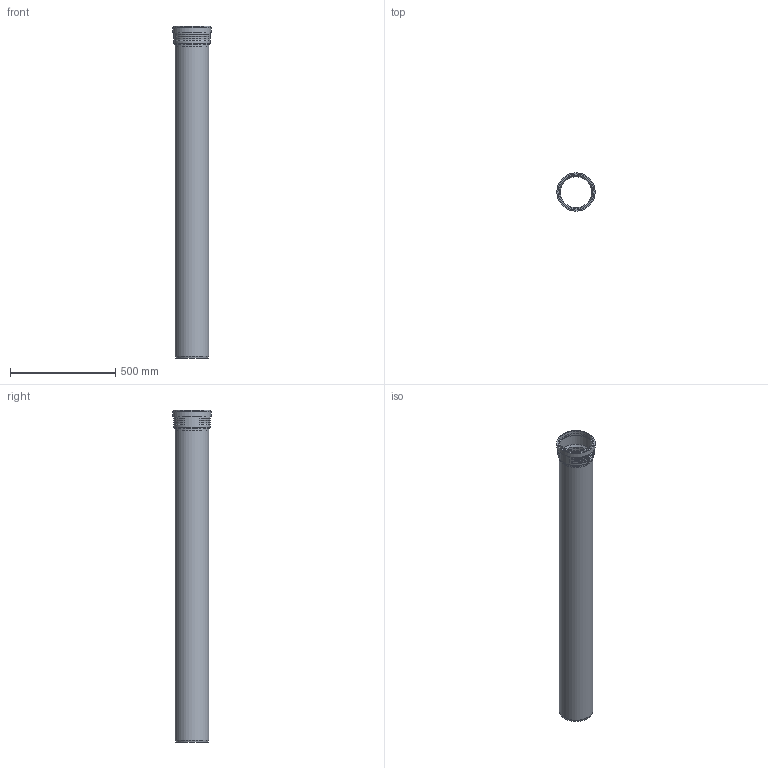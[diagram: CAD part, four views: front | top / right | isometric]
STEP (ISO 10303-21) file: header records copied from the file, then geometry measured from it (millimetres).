
FILE_DESCRIPTION(/* description */ (''),/* implementation_level */ '2;1');
FILE_NAME(/* name */ 'Z:\Geberit\Export\NewStep\390705.stp',/* time_stamp */ '2014-04-02T08:16:26+02:00',/* author */ ('ML'),/* organization */ (''),/* preprocessor_version */ 'ST-DEVELOPER v15.2',/* originating_system */ 'Autodesk Inventor 2014',/* authorisation */ '');
FILE_SCHEMA (('AUTOMOTIVE_DESIGN { 1 0 10303 214 3 1 1 }'));
Length unit declared in the file: millimetre
Products named in the file (3): 861677; 861587ohne; 390705
Bounding box: 182.6 x 182.6 x 1580.6 mm (x, y, z)
Volume: 4085682.2 mm3; surface area: 1584933 mm2
Topology: 2 solids, 2 shells, 47 faces, 104 edges, 71 vertices
Faces by surface type: torus 24, cylinder 11, plane 10, cone 2
Full cylindrical faces by diameter (mm): 149.85 x2, 160.25 x2, 161.4 x2, 166.6 x1, 171.8 x2, 172.2 x1, 182.6 x1
Entity records: 2003 total; most frequent: CARTESIAN_POINT 962, DIRECTION 182, ORIENTED_EDGE 174, AXIS2_PLACEMENT_3D 91, EDGE_CURVE 87, EDGE_LOOP 78, VERTEX_POINT 71, STYLED_ITEM 49
